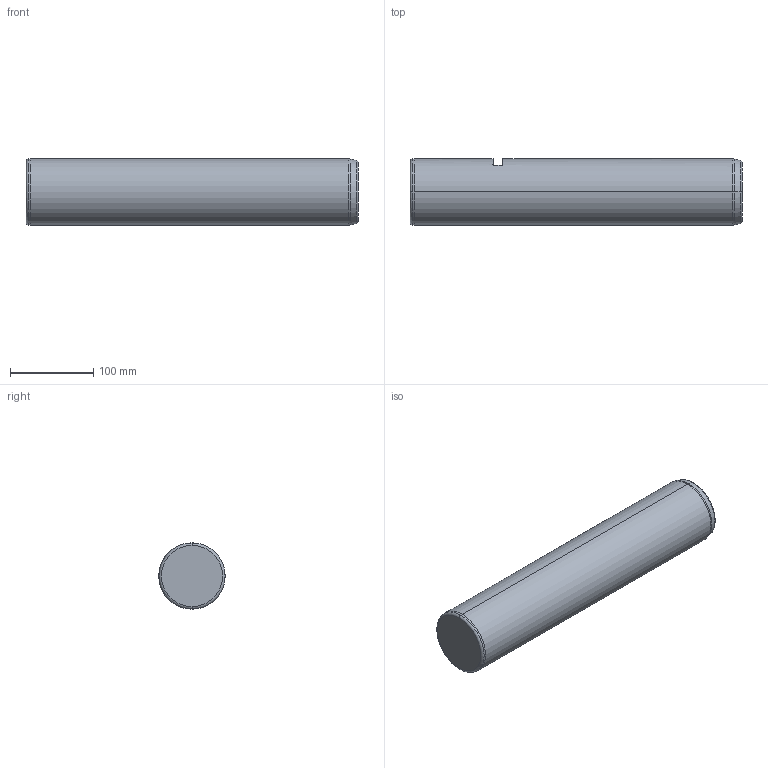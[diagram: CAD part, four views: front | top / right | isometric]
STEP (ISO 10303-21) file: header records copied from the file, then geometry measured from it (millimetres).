
FILE_DESCRIPTION (( 'STEP AP214' ), '1' );
FILE_NAME ('SP202-08-80-400.STEP', '2020-11-03T14:26:07', ( '' ), ( '' ), 'SwSTEP 2.0', 'SolidWorks 2018', '' );
FILE_SCHEMA (( 'AUTOMOTIVE_DESIGN' ));
Length unit declared in the file: millimetre
Products named in the file (1): SP202-08-80-400
Bounding box: 400 x 80 x 80 mm (x, y, z)
Volume: 1999036.7 mm3; surface area: 111096.5 mm2
Topology: 1 solids, 1 shells, 26 faces, 54 edges, 31 vertices
Faces by surface type: cylinder 8, cone 6, torus 6, plane 6
Entity records: 744 total; most frequent: CARTESIAN_POINT 150, DIRECTION 132, ORIENTED_EDGE 104, AXIS2_PLACEMENT_3D 57, EDGE_CURVE 52, VERTEX_POINT 31, CIRCLE 30, EDGE_LOOP 29
